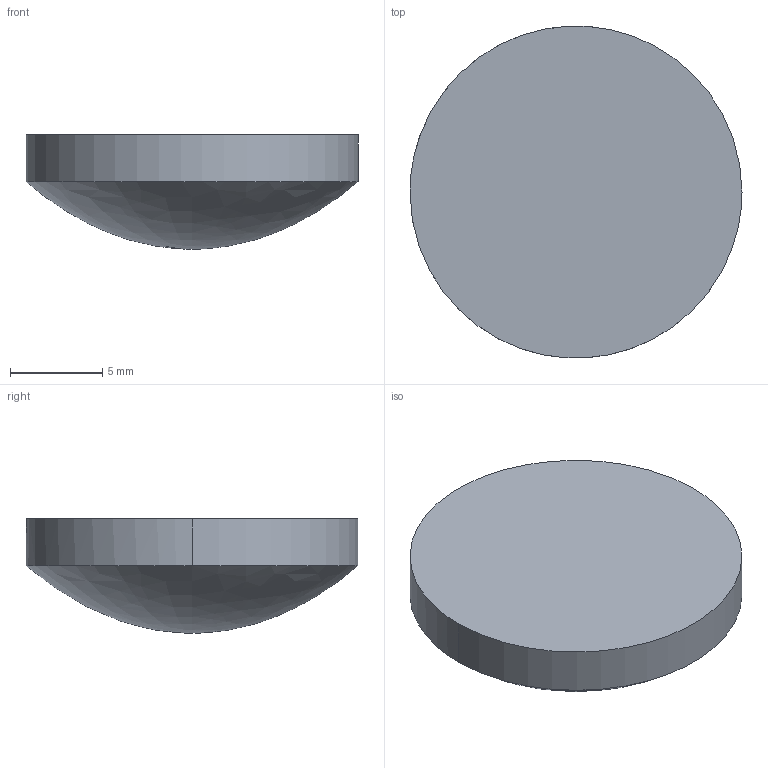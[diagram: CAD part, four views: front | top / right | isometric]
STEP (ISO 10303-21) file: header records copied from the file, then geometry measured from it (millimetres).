
FILE_DESCRIPTION ((), '1');
FILE_NAME ('\\fileserver\Daten\Applikationen\Optikdesign\SPA-Design\aktuelle SPA-Designs\Linsenkataloge - 2016-Juni\Zemax\AHL\AHL18-15.STP', '2016-05-24T14:17:48', ('Unknown'), ('Unknown'), 'HarmonyWare STEP v2.0.1', 'HarmonyWare Translators', '');
FILE_SCHEMA (('CONFIG_CONTROL_DESIGN'));
Length unit declared in the file: millimetre
Products named in the file (1): NONE
Bounding box: 18 x 17.98 x 6.2 mm (x, y, z)
Volume: 1121.1 mm3; surface area: 692.4 mm2
Topology: 1 solids, 1 shells, 4 faces, 9 edges, 6 vertices
Faces by surface type: cylinder 2, bspline 1, plane 1
Entity records: 295 total; most frequent: CARTESIAN_POINT 144, ORIENTED_EDGE 16, EDGE_CURVE 8, PERSON 8, ORGANIZATION 8, PERSON_AND_ORGANIZATION 8, VERTEX_POINT 6, DIRECTION 6
